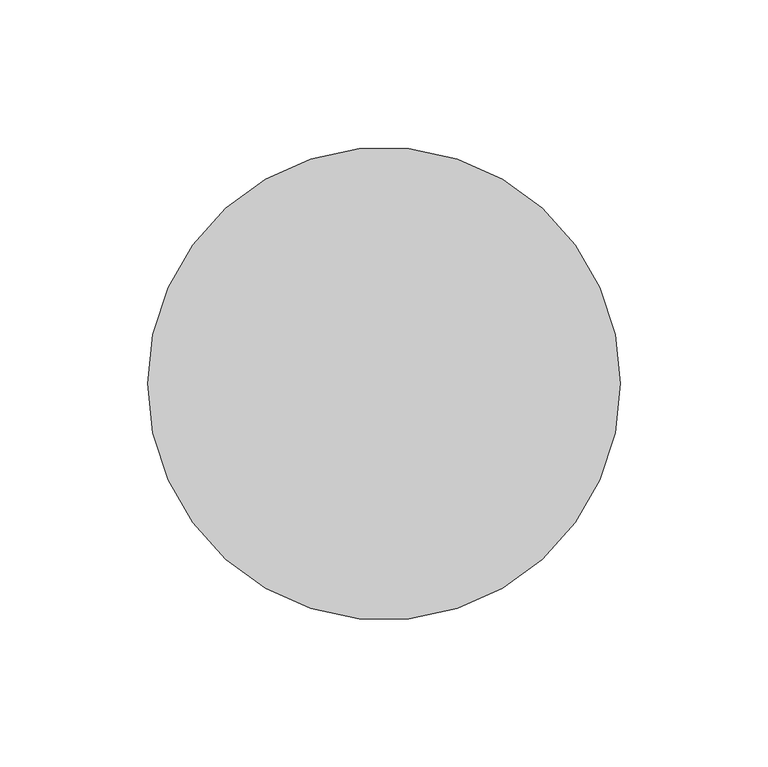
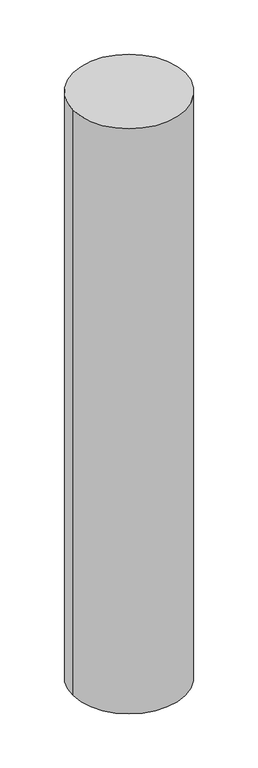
"""IFC4 building model written with IfcOpenShell, lengths in millimetres: proxy geometry, Building Materials_Other_Accessory_LEG_for ATLANTIS : LEG_Ø160."""

from ifc_helpers import new_model, si_unit, point, origin, origin_with_axes, origin_2d, place, context, project, spatial, circle_curve, trimmed, segment, composite_curve, outline, extrude, source, transform, mapped, element, save


def generic_models_b2027c3c(model_context):
    return source(origin(), model_context, "Body", "SweptSolid", [
        extrude(outline(composite_curve([segment(trimmed(circle_curve(origin_2d(), 80.0), [point((-80.0, 0.0))], [point((80.0, 0.0))], False, "CARTESIAN"), True, "CONTINUOUS"), segment(trimmed(circle_curve(origin_2d(), 80.0), [point((80.0, 0.0))], [point((-80.0, 0.0))], False, "CARTESIAN"), True, "CONTINUOUS")], self_intersect=False)), origin_with_axes(), (0.0, 0.0, 1.0), 880.0),
    ])


if __name__ == "__main__":
    model = new_model("IFC4")
    model_context = context("Model", 3, world=origin())
    ifc_project = project(units=[si_unit("LENGTHUNIT", "METRE", prefix="MILLI")], contexts=[model_context])
    site = spatial("IfcSite", under=ifc_project)
    building = spatial("IfcBuilding", under=site)
    placement = place(None, origin())
    generic_models_shape = generic_models_b2027c3c(model_context)
    element("IfcBuildingElementProxy", 1, Name="Building Materials_Other_Accessory_LEG_for ATLANTIS : LEG_Ø160", ObjectType="Building Materials_Other_Accessory_LEG_for ATLANTIS : LEG_Ø160", at=placement, inside=building, context=model_context, shape_type="MappedRepresentation", body=[
        mapped(generic_models_shape, transform((0.0, 0.0, 0.0), x_axis=(1.0, 0.0, 0.0), y_axis=(0.0, 1.0, 0.0), z_axis=(0.0, 0.0, 1.0))),
    ])
    save(model, "model.ifc")
